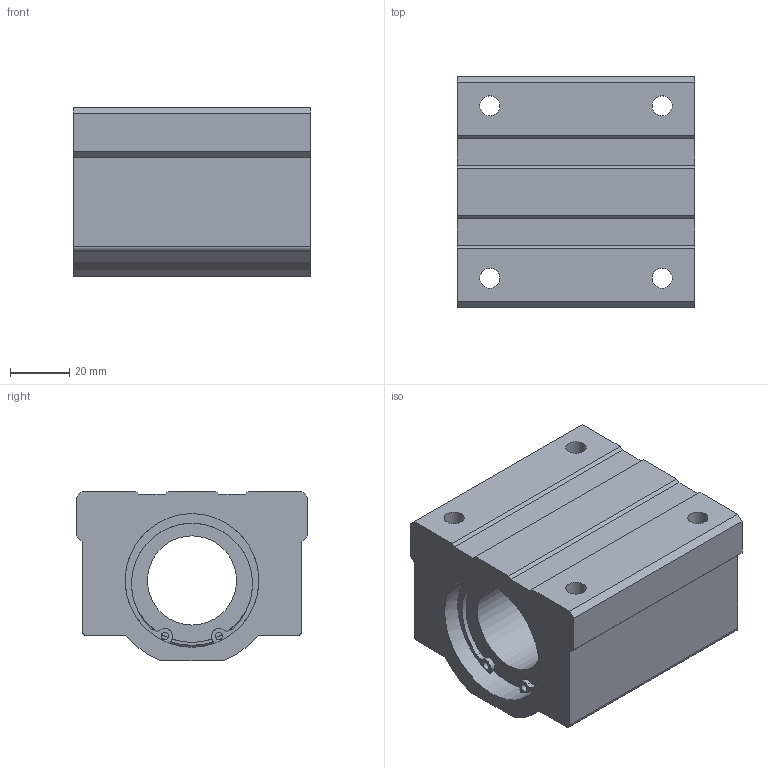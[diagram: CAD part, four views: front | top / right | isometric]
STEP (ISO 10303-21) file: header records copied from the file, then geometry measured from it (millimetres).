
FILE_DESCRIPTION((''),'2;1');
FILE_NAME('D:\製品 (図面)\カタログ用3D\リニアベアリング関連(改)\STEP形式\LH\LH30.stp','2010-01-25T10:16:48',('Tsuchiya'),(''),'Autodesk Inventor 10','Autodesk Inventor 10','');
FILE_SCHEMA(('AUTOMOTIVE_DESIGN { 1 0 10303 214 1 1 1 1 }'));
Length unit declared in the file: millimetre
Products named in the file (1): LH30
Bounding box: 80 x 78 x 57 mm (x, y, z)
Volume: 236607.6 mm3; surface area: 41928.7 mm2
Topology: 1 solids, 3 shells, 85 faces, 251 edges, 158 vertices
Faces by surface type: plane 45, cylinder 20, bspline 18, torus 2
Full cylindrical faces by diameter (mm): 2.5 x2, 30 x1, 41.7 x2, 43 x2, 45 x4
Entity records: 2824 total; most frequent: CARTESIAN_POINT 646, DIRECTION 468, ORIENTED_EDGE 424, EDGE_CURVE 212, AXIS2_PLACEMENT_3D 188, VERTEX_POINT 140, EDGE_LOOP 126, CIRCLE 120
